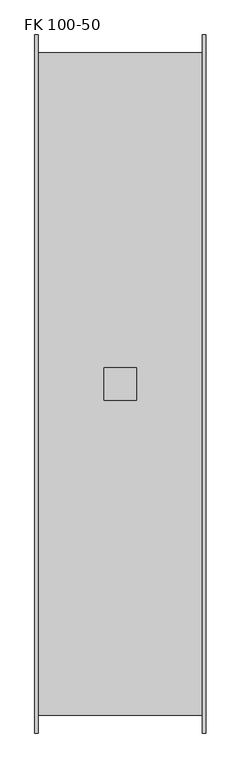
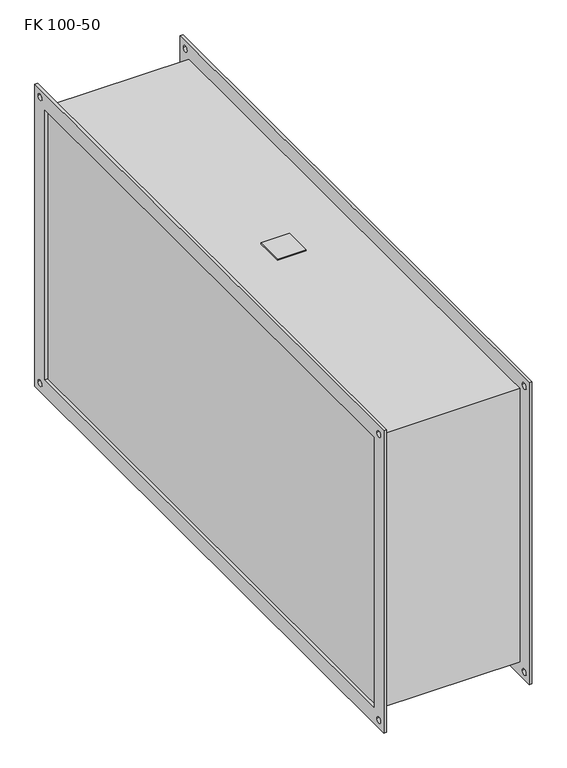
"""IFC4 building model written with IfcOpenShell, lengths in millimetres: damper geometry, KORF_Фильтр_Кассетный_FK : FK 100-50."""

from ifc_helpers import new_model, si_unit, point, frame, frame_2d, origin, place, context, project, spatial, polyline, circle_curve, trimmed, segment, composite_curve, outline, extrude, source, transform, mapped, element, save


def fk_100_50_707d1d4b(model_context):
    return source(origin(), model_context, "Body", "SweptSolid", [
        extrude(outline(polyline([(105.0, -25.0), (105.0, 25.0), (155.0, 25.0), (155.0, -25.0), (105.0, -25.0)])), frame((0.0, 0.0, 253.0), z_axis=(0.0, 0.0, 1.0), x_axis=(1.0, 0.0, 0.0)), (0.0, 0.0, 1.0), 2.0),
        extrude(outline(polyline([(-530.0, 280.0), (530.0, 280.0), (530.0, -280.0), (-530.0, -280.0), (-530.0, 280.0)]), holes=[polyline([(-500.0, 250.0), (-500.0, -250.0), (500.0, -250.0), (500.0, 250.0), (-500.0, 250.0)]), composite_curve([segment(trimmed(circle_curve(frame_2d((515.0, 265.0)), 5.5), [point((509.5, 265.0))], [point((520.5, 265.0))], True, "CARTESIAN"), True, "CONTINUOUS"), segment(trimmed(circle_curve(frame_2d((515.0, 265.0)), 5.5), [point((520.5, 265.0))], [point((509.5, 265.0))], True, "CARTESIAN"), True, "CONTINUOUS")], self_intersect=False), composite_curve([segment(trimmed(circle_curve(frame_2d((-515.0, 265.0)), 5.5), [point((-520.5, 265.0))], [point((-509.5, 265.0))], True, "CARTESIAN"), True, "CONTINUOUS"), segment(trimmed(circle_curve(frame_2d((-515.0, 265.0)), 5.5), [point((-509.5, 265.0))], [point((-520.5, 265.0))], True, "CARTESIAN"), True, "CONTINUOUS")], self_intersect=False), composite_curve([segment(trimmed(circle_curve(frame_2d((-515.0, -265.0)), 5.5), [point((-520.5, -265.0))], [point((-509.5, -265.0))], True, "CARTESIAN"), True, "CONTINUOUS"), segment(trimmed(circle_curve(frame_2d((-515.0, -265.0)), 5.5), [point((-509.5, -265.0))], [point((-520.5, -265.0))], True, "CARTESIAN"), True, "CONTINUOUS")], self_intersect=False), composite_curve([segment(trimmed(circle_curve(frame_2d((515.0, -265.0)), 5.5), [point((509.5, -265.0))], [point((520.5, -265.0))], True, "CARTESIAN"), True, "CONTINUOUS"), segment(trimmed(circle_curve(frame_2d((515.0, -265.0)), 5.5), [point((520.5, -265.0))], [point((509.5, -265.0))], True, "CARTESIAN"), True, "CONTINUOUS")], self_intersect=False)]), frame((255.0, 0.0, 0.0), z_axis=(1.0, 0.0, 0.0), x_axis=(0.0, 1.0, 0.0)), (0.0, 0.0, 1.0), 5.0),
        extrude(outline(polyline([(-530.0, 280.0), (530.0, 280.0), (530.0, -280.0), (-530.0, -280.0), (-530.0, 280.0)]), holes=[polyline([(-500.0, 250.0), (-500.0, -250.0), (500.0, -250.0), (500.0, 250.0), (-500.0, 250.0)]), composite_curve([segment(trimmed(circle_curve(frame_2d((515.0, 265.0)), 5.5), [point((509.5, 265.0))], [point((520.5, 265.0))], True, "CARTESIAN"), True, "CONTINUOUS"), segment(trimmed(circle_curve(frame_2d((515.0, 265.0)), 5.5), [point((520.5, 265.0))], [point((509.5, 265.0))], True, "CARTESIAN"), True, "CONTINUOUS")], self_intersect=False), composite_curve([segment(trimmed(circle_curve(frame_2d((-515.0, 265.0)), 5.5), [point((-520.5, 265.0))], [point((-509.5, 265.0))], True, "CARTESIAN"), True, "CONTINUOUS"), segment(trimmed(circle_curve(frame_2d((-515.0, 265.0)), 5.5), [point((-509.5, 265.0))], [point((-520.5, 265.0))], True, "CARTESIAN"), True, "CONTINUOUS")], self_intersect=False), composite_curve([segment(trimmed(circle_curve(frame_2d((-515.0, -265.0)), 5.5), [point((-520.5, -265.0))], [point((-509.5, -265.0))], True, "CARTESIAN"), True, "CONTINUOUS"), segment(trimmed(circle_curve(frame_2d((-515.0, -265.0)), 5.5), [point((-509.5, -265.0))], [point((-520.5, -265.0))], True, "CARTESIAN"), True, "CONTINUOUS")], self_intersect=False), composite_curve([segment(trimmed(circle_curve(frame_2d((515.0, -265.0)), 5.5), [point((509.5, -265.0))], [point((520.5, -265.0))], True, "CARTESIAN"), True, "CONTINUOUS"), segment(trimmed(circle_curve(frame_2d((515.0, -265.0)), 5.5), [point((520.5, -265.0))], [point((509.5, -265.0))], True, "CARTESIAN"), True, "CONTINUOUS")], self_intersect=False)]), frame((0.0, 0.0, 0.0), z_axis=(1.0, 0.0, 0.0), x_axis=(0.0, 1.0, 0.0)), (0.0, 0.0, 1.0), 5.0),
        extrude(outline(polyline([(255.0, 503.0), (255.0, -503.0), (5.0, -503.0), (5.0, 503.0), (255.0, 503.0)])), frame((0.0, 0.0, -253.0), z_axis=(0.0, 0.0, 1.0), x_axis=(1.0, 0.0, 0.0)), (0.0, 0.0, 1.0), 506.0),
    ])


if __name__ == "__main__":
    model = new_model("IFC4")
    model_context = context("Model", 3, world=origin())
    ifc_project = project(units=[si_unit("LENGTHUNIT", "METRE", prefix="MILLI")], contexts=[model_context])
    site = spatial("IfcSite", under=ifc_project)
    building = spatial("IfcBuilding", under=site)
    placement = place(None, origin())
    fk_100_50_shape = fk_100_50_707d1d4b(model_context)
    element("IfcDamper", 1, ObjectType="KORF_Фильтр_Кассетный_FK : FK 100-50", at=placement, inside=building, context=model_context, shape_type="MappedRepresentation", body=[
        mapped(fk_100_50_shape, transform((0.0, 0.0, 0.0), x_axis=(1.0, 0.0, 0.0), y_axis=(0.0, 1.0, 0.0), z_axis=(0.0, 0.0, 1.0))),
    ])
    save(model, "model.ifc")
